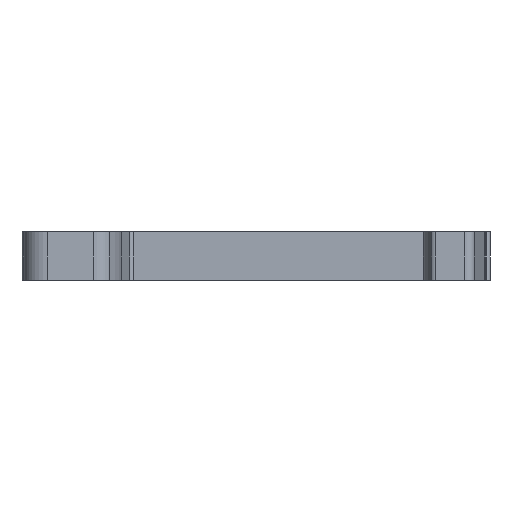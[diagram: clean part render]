
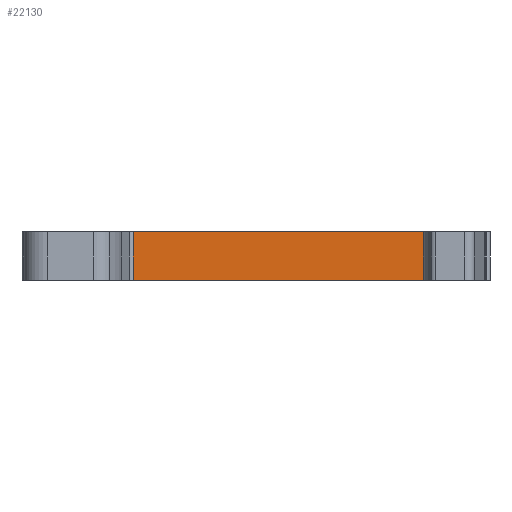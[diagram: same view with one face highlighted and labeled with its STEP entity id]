
A CAD part, front view. The second image highlights one B-rep face of the part: STEP entity #22130.
In plain terms, the highlighted planar face has unit normal (0, -1, 0).
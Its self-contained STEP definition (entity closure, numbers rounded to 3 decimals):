
#1040=CARTESIAN_POINT('',(-29.6,0.,
0.));
#1050=VERTEX_POINT('',#1040);
#1080=CARTESIAN_POINT('',(-29.6,0.,0.));
#1090=DIRECTION('',(0.,0.,-1.));
#1100=VECTOR('',#1090,1.);
#1110=LINE('',#1080,#1100);
#1120=CARTESIAN_POINT('',(-29.6,0.,-5.2))
;
#1130=VERTEX_POINT('',#1120);
#1140=EDGE_CURVE('',#1050,#1130,#1110,.T.);
#9060=CARTESIAN_POINT('',(2.7,0.,
0.));
#9070=VERTEX_POINT('',#9060);
#9100=CARTESIAN_POINT('',(0.,0.,0.)
);
#9110=DIRECTION('',(-1.,0.,0.));
#9120=VECTOR('',#9110,1.);
#9130=LINE('',#9100,#9120);
#9140=EDGE_CURVE('',#9070,#1050,#9130,.T.);
#15830=CARTESIAN_POINT('',(-12.5,0.,-5.2));
#15840=DIRECTION('',(-1.,0.,0.));
#15850=VECTOR('',#15840,1.);
#15860=LINE('',#15830,#15850);
#15870=CARTESIAN_POINT('',(2.7,0.,
-5.2));
#15880=VERTEX_POINT('',#15870);
#15890=EDGE_CURVE('',#15880,#1130,#15860,.T.);
#21970=CARTESIAN_POINT('',(9.2,0.,0.
));
#21980=DIRECTION('',(-0.,1.,0.));
#21990=DIRECTION('',(1.,0.,0.));
#22000=AXIS2_PLACEMENT_3D('',#21970,#21980,#21990);
#22010=PLANE('',#22000);
#22020=ORIENTED_EDGE('',*,*,#9140,.T.);
#22030=CARTESIAN_POINT('',(2.7,0.,0.));
#22040=DIRECTION('',(0.,-0.,1.));
#22050=VECTOR('',#22040,1.);
#22060=LINE('',#22030,#22050);
#22070=EDGE_CURVE('',#15880,#9070,#22060,.T.);
#22080=ORIENTED_EDGE('',*,*,#22070,.T.);
#22090=ORIENTED_EDGE('',*,*,#15890,.F.);
#22100=ORIENTED_EDGE('',*,*,#1140,.T.);
#22110=EDGE_LOOP('',(#22100,#22090,#22080,#22020));
#22120=FACE_OUTER_BOUND('',#22110,.T.);
#22130=ADVANCED_FACE('',(#22120),#22010,.F.);
